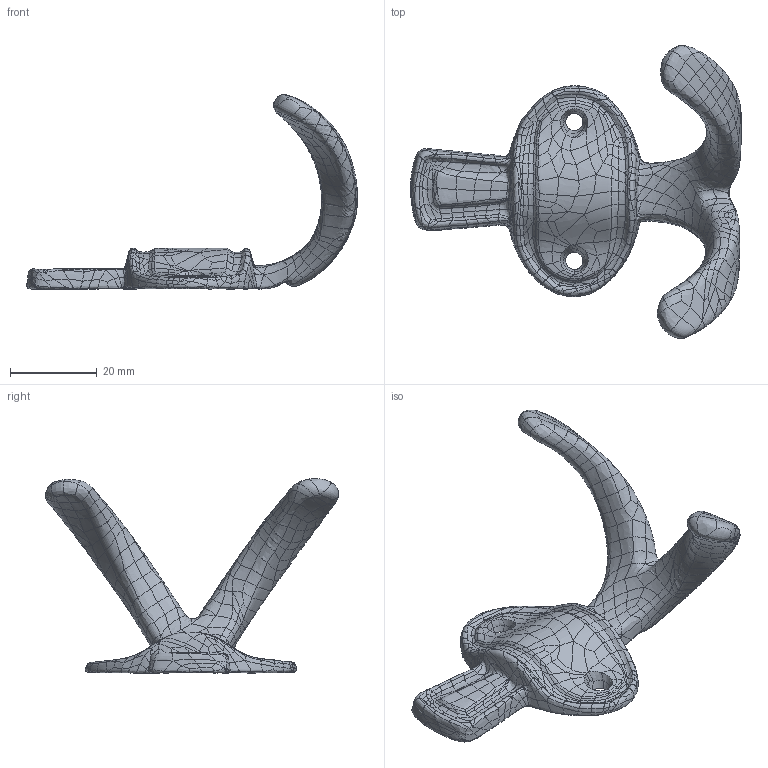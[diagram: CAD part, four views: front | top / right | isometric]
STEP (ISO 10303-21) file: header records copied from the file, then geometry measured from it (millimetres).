
FILE_DESCRIPTION(/* description */ (''),/* implementation_level */ '2;1');
FILE_NAME(/* name */ 'D:\$Workingspace\Designs\Meblowka\wieszaki\WZ-CORUNA\WZ-CORUNA-M.stp',/* time_stamp */ '2019-03-04T08:19:34+01:00',/* author */ ('tomaszw'),/* organization */ (''),/* preprocessor_version */ 'ST-DEVELOPER v17',/* originating_system */ 'Autodesk Inventor 2019',/* authorisation */ '');
FILE_SCHEMA (('AUTOMOTIVE_DESIGN { 1 0 10303 214 3 1 1 }'));
Products named in the file (1): WZ-CORUNA-M
Bounding box: 76.25 x 67.55 x 44.88 mm (x, y, z)
Volume: 11031.9 mm3; surface area: 7823.5 mm2
Topology: 1 solids, 1 shells, 1277 faces, 2565 edges, 1286 vertices
Faces by surface type: bspline 1277
Entity records: 298674 total; most frequent: CARTESIAN_POINT 281974, ORIENTED_EDGE 5130, B_SPLINE_CURVE_WITH_KNOTS 2565, EDGE_CURVE 2565, VERTEX_POINT 1286, FACE_OUTER_BOUND 1277, EDGE_LOOP 1277, B_SPLINE_SURFACE_WITH_KNOTS 1277
